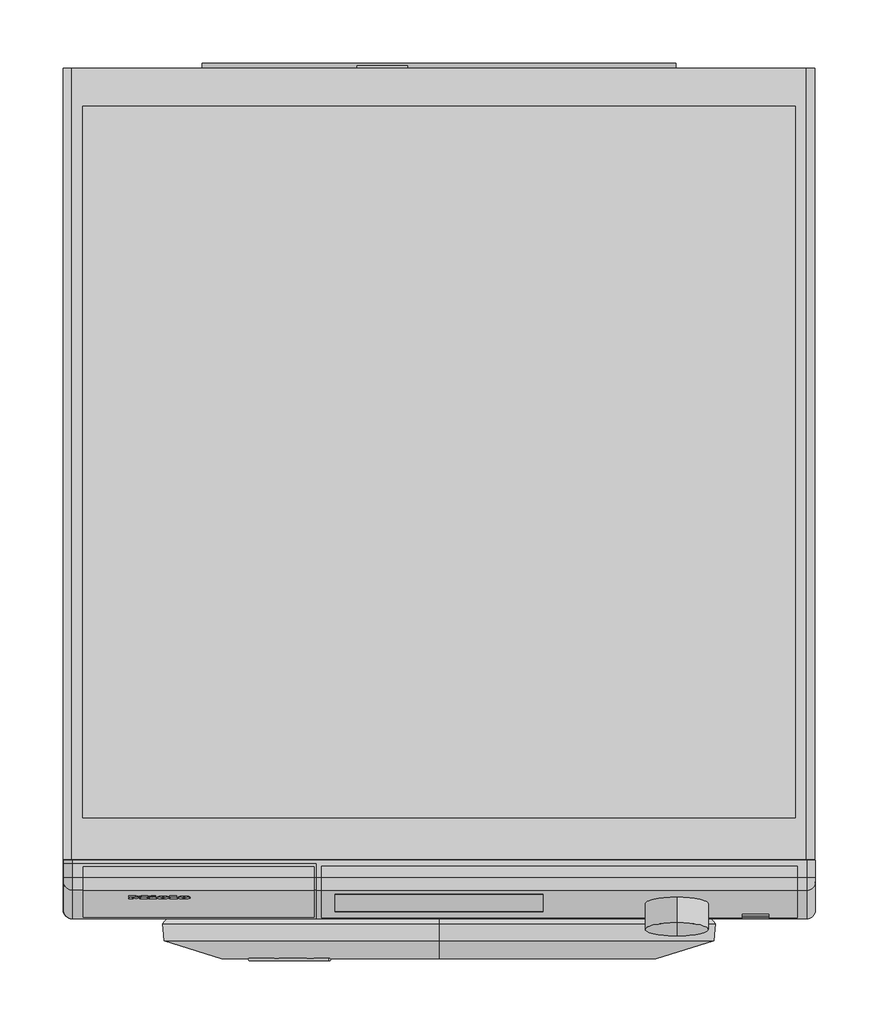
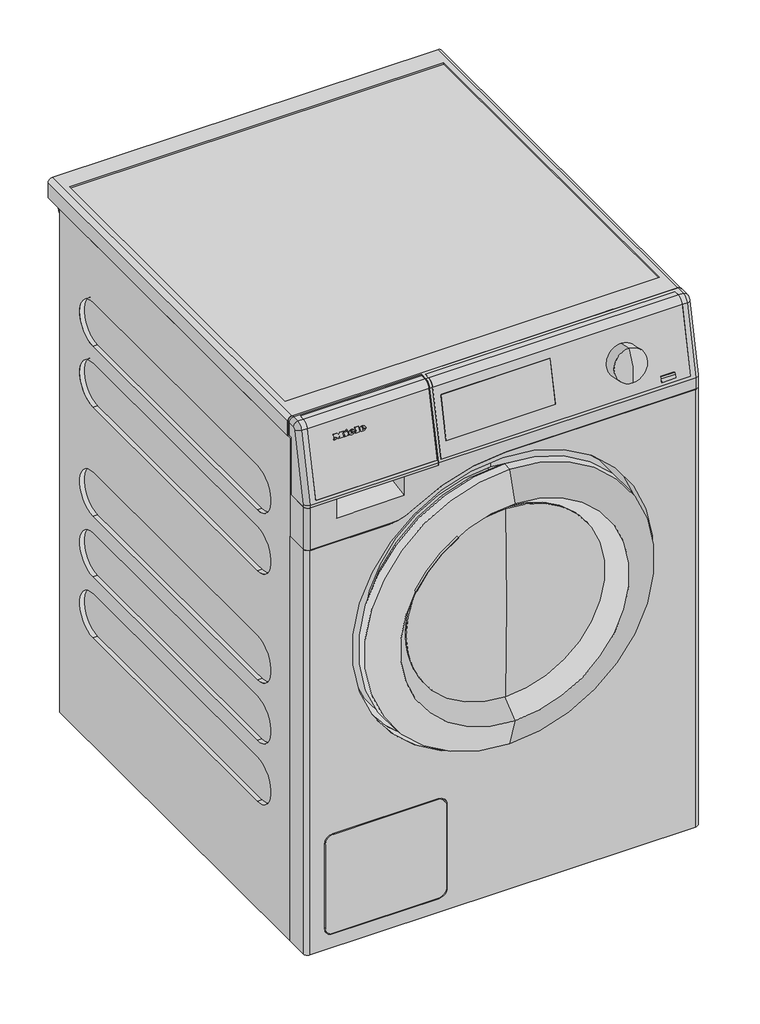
# Not in any storey: 1 proxy.
"""IFC4 building model written with IfcOpenShell, lengths in millimetres."""

from ifc_helpers import new_model, si_unit, origin, place, context, project, spatial, transform, mapped, element, save
from components import specialty_equipment_2d1db38d, specialty_equipment_d8dd58c1, specialty_equipment_5b245b4f

model = new_model("IFC4")

# Units and contexts
model_context = context("Model", 3, world=origin())
ifc_project = project(units=[si_unit("LENGTHUNIT", "METRE", prefix="MILLI")], contexts=[model_context])

# Site, building
site = spatial("IfcSite", under=ifc_project)
building = spatial("IfcBuilding", under=site)

# Proxy
placement = place(None, origin())
specialty_equipment_shape = specialty_equipment_2d1db38d(model_context)
specialty_equipment_2_shape = specialty_equipment_d8dd58c1(model_context)
specialty_equipment_3_shape = specialty_equipment_5b245b4f(model_context)
element("IfcBuildingElementProxy", 1, Name="11087200_NL_PWM507DV_LW : 51507251_NL_11087200_PWM507DV_LW", ObjectType="11087200_NL_PWM507DV_LW : 51507251_NL_11087200_PWM507DV_LW", at=placement, inside=building, context=model_context, shape_type="MappedRepresentation", body=[
    mapped(specialty_equipment_shape, transform((0.0, 0.0, 0.0), x_axis=(1.0, 0.0, 0.0), y_axis=(0.0, 1.0, 0.0), z_axis=(0.0, 0.0, 1.0))),
    mapped(specialty_equipment_2_shape, transform((0.0, 0.0, 0.0), x_axis=(1.0, 0.0, 0.0), y_axis=(0.0, 1.0, 0.0), z_axis=(0.0, 0.0, 1.0))),
    mapped(specialty_equipment_3_shape, transform((0.0, 0.0, 0.0), x_axis=(1.0, 0.0, 0.0), y_axis=(0.0, 1.0, 0.0), z_axis=(0.0, 0.0, 1.0))),
])

save(model, "model.ifc")
